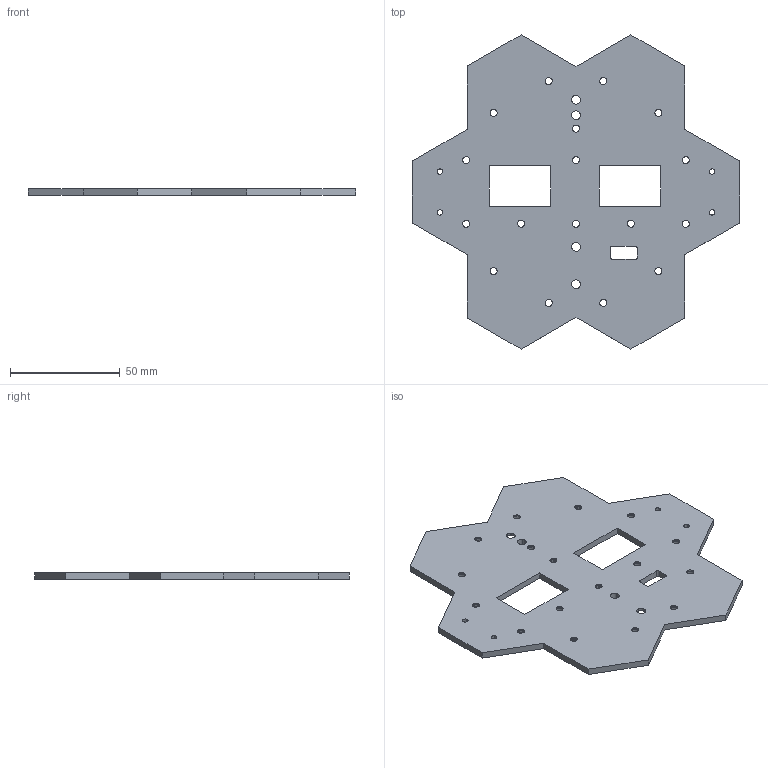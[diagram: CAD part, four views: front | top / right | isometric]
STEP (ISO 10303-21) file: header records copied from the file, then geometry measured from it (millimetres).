
FILE_DESCRIPTION(('CATIA V5 STEP Exchange','CAx-IF Rec.Pracs.--- Model Styling and Organization---1.4--- 2014-01-23','CAx-IF Rec.Pracs.---3D Tessellated Data Validation Properties---0.5---2014-09-14'),'2;1');
FILE_NAME('D:\CTA\NECTARCAM PROD\CTA-01 - Camera Module\CTA-0101 - Focal Plane Module\CTA-010104 - Mechanical Components\CTA-010104-001 - Module_Base_Plate.stp','2025-07-24T12:25:44+00:00',('none'),('none'),'CATIA Version 5-6 Release 2018 SP5 HF4','CATIA V5 STEP AP242','none');
FILE_SCHEMA(('AP242_MANAGED_MODEL_BASED_3D_ENGINEERING_MIM_LF {1 0 10303 442 1 1 4}'));
Length unit declared in the file: millimetre
Products named in the file (1): CTA-010104-001
Bounding box: 149 x 143.18 x 3 mm (x, y, z)
Volume: 40007.7 mm3; surface area: 30239.8 mm2
Topology: 1 solids, 1 shells, 160 faces, 400 edges, 244 vertices
Faces by surface type: cylinder 92, plane 34, cone 34
Entity records: 4412 total; most frequent: ORIENTED_EDGE 800, CARTESIAN_POINT 788, DIRECTION 578, EDGE_CURVE 400, AXIS2_PLACEMENT_3D 292, VERTEX_POINT 244, EDGE_LOOP 218, CIRCLE 184
